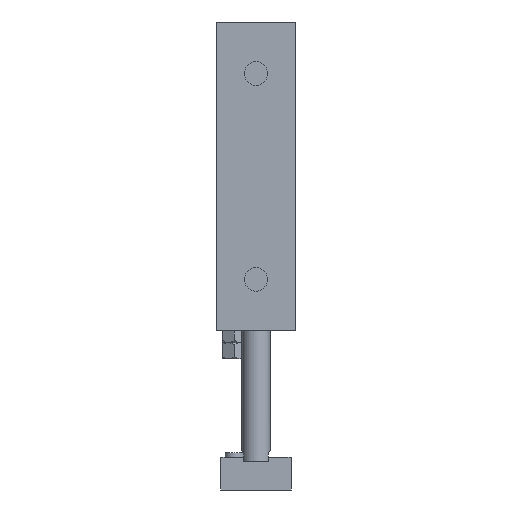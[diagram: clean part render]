
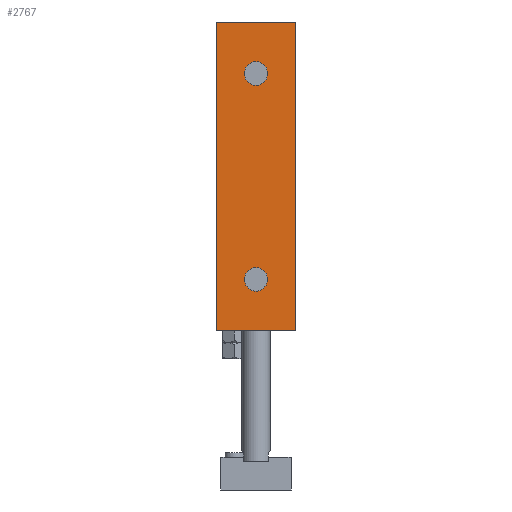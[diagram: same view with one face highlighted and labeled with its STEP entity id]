
A CAD part, front view. The second image highlights one B-rep face of the part: STEP entity #2767.
In plain terms, the highlighted planar face has unit normal (0, -1, 0).
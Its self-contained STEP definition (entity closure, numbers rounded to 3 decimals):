
#121=CARTESIAN_POINT('',(2.5,-21.0,89.0));
#122=VERTEX_POINT('',#121);
#123=CARTESIAN_POINT('',(0.0,-21.0,89.0));
#124=DIRECTION('',(0.0,1.0,0.0));
#125=DIRECTION('',(-1.0,0.0,0.0));
#126=AXIS2_PLACEMENT_3D('',#123,#124,#125);
#127=CIRCLE('',#126,2.5);
#128=EDGE_CURVE('',#122,#122,#127,.T.);
#158=CARTESIAN_POINT('',(2.5,-21.0,45.0));
#159=VERTEX_POINT('',#158);
#160=CARTESIAN_POINT('',(0.0,-21.0,45.0));
#161=DIRECTION('',(0.0,1.0,0.0));
#162=DIRECTION('',(-1.0,0.0,0.0));
#163=AXIS2_PLACEMENT_3D('',#160,#161,#162);
#164=CIRCLE('',#163,2.5);
#165=EDGE_CURVE('',#159,#159,#164,.T.);
#2582=CARTESIAN_POINT('',(-8.5,-21.0,100.0));
#2583=VERTEX_POINT('',#2582);
#2590=CARTESIAN_POINT('',(8.5,-21.0,100.0));
#2591=VERTEX_POINT('',#2590);
#2592=CARTESIAN_POINT('',(8.5,-21.0,100.0));
#2593=DIRECTION('',(-1.0,0.0,0.0));
#2594=VECTOR('',#2593,17.);
#2595=LINE('',#2592,#2594);
#2596=EDGE_CURVE('',#2591,#2583,#2595,.T.);
#2642=CARTESIAN_POINT('',(8.5,-21.0,34.0));
#2643=VERTEX_POINT('',#2642);
#2644=CARTESIAN_POINT('',(8.5,-21.0,34.0));
#2645=DIRECTION('',(0.0,0.0,1.0));
#2646=VECTOR('',#2645,66.0);
#2647=LINE('',#2644,#2646);
#2648=EDGE_CURVE('',#2643,#2591,#2647,.T.);
#2703=CARTESIAN_POINT('',(-8.5,-21.0,34.0));
#2704=VERTEX_POINT('',#2703);
#2705=CARTESIAN_POINT('',(8.5,-21.0,34.0));
#2706=DIRECTION('',(-1.0,0.0,0.0));
#2707=VECTOR('',#2706,17.);
#2708=LINE('',#2705,#2707);
#2709=EDGE_CURVE('',#2643,#2704,#2708,.T.);
#2745=CARTESIAN_POINT('',(8.5,-21.0,34.0));
#2746=DIRECTION('',(0.0,-1.0,0.0));
#2747=DIRECTION('',(0.0,0.0,-1.0));
#2748=AXIS2_PLACEMENT_3D('',#2745,#2746,#2747);
#2749=PLANE('',#2748);
#2750=ORIENTED_EDGE('',*,*,#2596,.T.);
#2751=CARTESIAN_POINT('',(-8.5,-21.0,34.0));
#2752=DIRECTION('',(0.0,0.0,1.0));
#2753=VECTOR('',#2752,66.0);
#2754=LINE('',#2751,#2753);
#2755=EDGE_CURVE('',#2704,#2583,#2754,.T.);
#2756=ORIENTED_EDGE('',*,*,#2755,.F.);
#2757=ORIENTED_EDGE('',*,*,#2709,.F.);
#2758=ORIENTED_EDGE('',*,*,#2648,.T.);
#2759=EDGE_LOOP('',(#2750,#2756,#2757,#2758));
#2760=FACE_OUTER_BOUND('',#2759,.T.);
#2761=ORIENTED_EDGE('',*,*,#128,.T.);
#2762=EDGE_LOOP('',(#2761));
#2763=FACE_BOUND('',#2762,.T.);
#2764=ORIENTED_EDGE('',*,*,#165,.T.);
#2765=EDGE_LOOP('',(#2764));
#2766=FACE_BOUND('',#2765,.T.);
#2767=ADVANCED_FACE('',(#2760,#2763,#2766),#2749,.T.);
